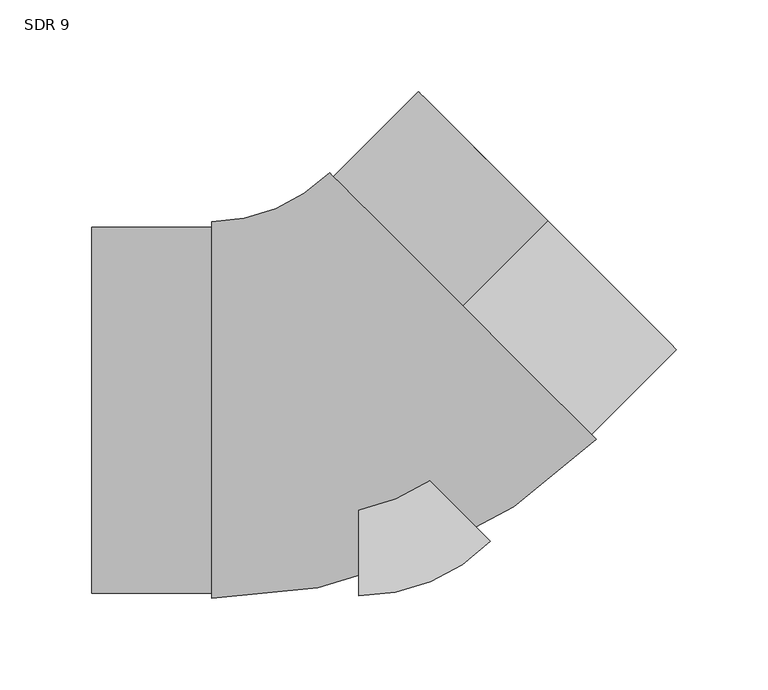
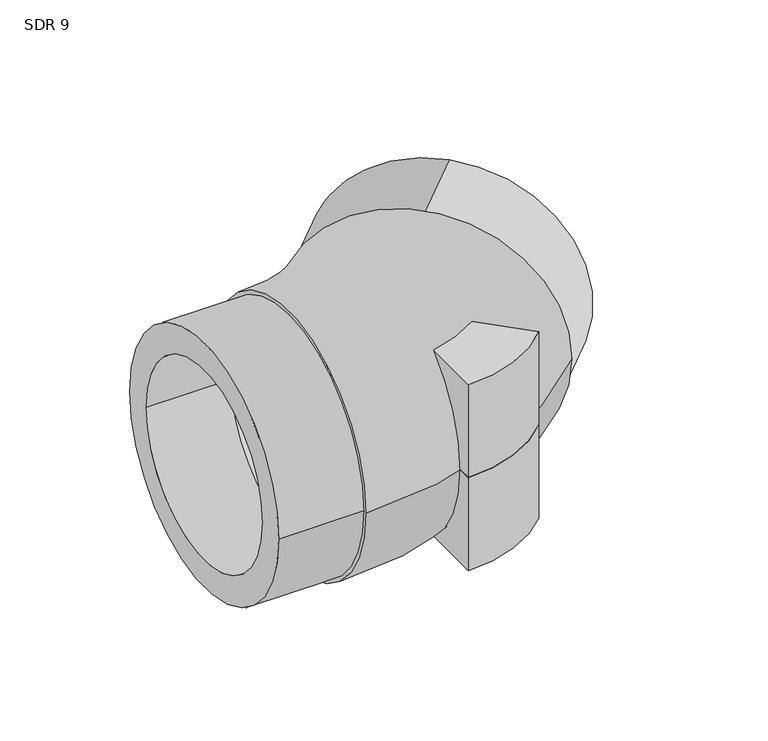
"""IFC4 building model written with IfcOpenShell, lengths in millimetres: pipe fitting geometry, Aquatherm - Elbow BW Molded : SDR 9."""

import ifcopenshell
import ifcopenshell.guid

model = None  # the IFC model being written
_history = None  # IfcOwnerHistory: only IFC2X3 demands one
_inside = {}  # id of a spatial element -> (the spatial element, [elements in it])
_under = {}  # id of a project, library or spatial element -> (it, [spatial elements below it])
_declared = {}  # id of a project -> (the project, [libraries it declares])
_typed = {}  # id of a type object -> (the type object, [elements of that type])
_made_of = {}  # id of a material, layer set ... -> (it, [elements and type objects made of it])


def new_model(schema):
    """Start an empty IFC model of exactly this schema.

    Asked for "IFC4X3", IfcOpenShell would pick the latest addendum, in which some entities
    have other attributes; the version numbers below select the first issue.
    IFC2X3 requires an IfcOwnerHistory on every rooted entity: one is made here for all.
    """
    global model, _history
    if schema == "IFC4X3":
        model = ifcopenshell.file(schema_version=(4, 3, 0, 0))
    else:
        model = ifcopenshell.file(schema=schema)
    _inside.clear()
    _under.clear()
    _declared.clear()
    _typed.clear()
    _made_of.clear()
    _history = None
    if model.schema == "IFC2X3":
        org = make("IfcOrganization", Name="unknown")
        user = make(
            "IfcPersonAndOrganization",
            ThePerson=make("IfcPerson", FamilyName="unknown"),
            TheOrganization=org,
        )
        app = make(
            "IfcApplication",
            ApplicationDeveloper=org,
            Version="unknown",
            ApplicationFullName="unknown",
            ApplicationIdentifier="unknown",
        )
        _history = make(
            "IfcOwnerHistory",
            OwningUser=user,
            OwningApplication=app,
            ChangeAction="ADDED",
            CreationDate=0,
        )
    return model


def make(cls, **values):
    """One entity of the class cls with the attributes given. An attribute that is None is left unset."""
    return model.create_entity(
        cls, **{name: value for name, value in values.items() if value is not None}
    )


def rooted(cls, **values):
    """An entity with a GlobalId (a new one), such as an element, a storey or a relation."""
    return make(cls, GlobalId=ifcopenshell.guid.new(), OwnerHistory=_history, **values)


def si_unit(unit_type, name, prefix=None):
    """IfcSIUnit, for example si_unit("LENGTHUNIT", "METRE", prefix="MILLI")."""
    return make("IfcSIUnit", UnitType=unit_type, Prefix=prefix, Name=name)


def assignment(units):
    """IfcUnitAssignment: the units of a project."""
    return None if units is None else make("IfcUnitAssignment", Units=units)


def point(xyz):
    """IfcCartesianPoint."""
    return None if xyz is None else make("IfcCartesianPoint", Coordinates=xyz)


def direction(xyz):
    """IfcDirection."""
    return None if xyz is None else make("IfcDirection", DirectionRatios=xyz)


def frame(location, z_axis=None, x_axis=None):
    """IfcAxis2Placement3D, a coordinate frame: its origin and axes. An axis left out is left unset."""
    return make(
        "IfcAxis2Placement3D",
        Location=point(location),
        Axis=direction(z_axis),
        RefDirection=direction(x_axis),
    )


def frame_2d(location, x_axis=None):
    """IfcAxis2Placement2D, a coordinate frame in the plane: its origin and x axis."""
    return make(
        "IfcAxis2Placement2D", Location=point(location), RefDirection=direction(x_axis)
    )


def origin():
    """The frame at (0, 0, 0) with its axes left unset."""
    return frame((0.0, 0.0, 0.0))


def origin_with_axes():
    """The frame at (0, 0, 0) with the z axis (0, 0, 1) and the x axis (1, 0, 0) written out."""
    return frame((0.0, 0.0, 0.0), z_axis=(0.0, 0.0, 1.0), x_axis=(1.0, 0.0, 0.0))


def origin_2d():
    """The frame at (0, 0) in the plane with its x axis left unset."""
    return frame_2d((0.0, 0.0))


def place(relative_to, where):
    """IfcLocalPlacement: puts the frame where relative to a parent placement (None: the world)."""
    return make(
        "IfcLocalPlacement", PlacementRelTo=relative_to, RelativePlacement=where
    )


def context(
    kind, dimensions, precision=None, world=None, true_north=None, identifier=None
):
    """IfcGeometricRepresentationContext, for example the 3D "Model" context."""
    return make(
        "IfcGeometricRepresentationContext",
        ContextIdentifier=identifier,
        ContextType=kind,
        CoordinateSpaceDimension=dimensions,
        Precision=precision,
        WorldCoordinateSystem=world,
        TrueNorth=true_north,
    )


def project(units=None, contexts=None):
    """IfcProject with its units and contexts."""
    return rooted(
        "IfcProject",
        Name="project",
        RepresentationContexts=contexts,
        UnitsInContext=assignment(units),
    )


def spatial(cls, under=None, at=None, **own):
    """A site, building, storey or space (cls), placed at a placement, below another one or the project."""
    s = rooted(cls, ObjectPlacement=at, **own)
    if under is not None:
        _under.setdefault(under.id(), (under, []))[1].append(s)
    return s


def polyline(points):
    """IfcPolyline through the points."""
    return make("IfcPolyline", Points=[point(p) for p in points])


def circle_curve(where, radius):
    """IfcCircle in the frame where."""
    return make("IfcCircle", Position=where, Radius=radius)


def ellipse_curve(where, semi_axis1, semi_axis2):
    """IfcEllipse in the frame where."""
    return make(
        "IfcEllipse", Position=where, SemiAxis1=semi_axis1, SemiAxis2=semi_axis2
    )


def trimmed(basis, trim1, trim2, sense, master):
    """IfcTrimmedCurve: the piece of a basis curve between two trims."""
    return make(
        "IfcTrimmedCurve",
        BasisCurve=basis,
        Trim1=trim1,
        Trim2=trim2,
        SenseAgreement=sense,
        MasterRepresentation=master,
    )


def segment(curve, same_sense, transition):
    """IfcCompositeCurveSegment."""
    return make(
        "IfcCompositeCurveSegment",
        Transition=transition,
        SameSense=same_sense,
        ParentCurve=curve,
    )


def composite_curve(segments, self_intersect=None):
    """IfcCompositeCurve: segments joined end to end."""
    return make("IfcCompositeCurve", Segments=segments, SelfIntersect=self_intersect)


def outline(outer, holes=None, kind="AREA"):
    """IfcArbitraryClosedProfileDef: a profile drawn as a closed curve; with holes, ...WithVoids."""
    if holes is None:
        return make("IfcArbitraryClosedProfileDef", ProfileType=kind, OuterCurve=outer)
    return make(
        "IfcArbitraryProfileDefWithVoids",
        ProfileType=kind,
        OuterCurve=outer,
        InnerCurves=holes,
    )


def extrude(swept, where, along, depth):
    """IfcExtrudedAreaSolid: the profile swept, set in the frame where, extruded along a direction by depth."""
    return make(
        "IfcExtrudedAreaSolid",
        SweptArea=swept,
        Position=where,
        ExtrudedDirection=direction(along),
        Depth=depth,
    )


def shape(context_of_items, identifier, shape_type, items):
    """IfcShapeRepresentation: the items that make up one representation, for example the "Body"."""
    return make(
        "IfcShapeRepresentation",
        ContextOfItems=context_of_items,
        RepresentationIdentifier=identifier,
        RepresentationType=shape_type,
        Items=items,
    )


def source(mapping_origin, context_of_items, identifier, shape_type, items):
    """IfcRepresentationMap: a shape defined once, which mapped items show again and again."""
    return make(
        "IfcRepresentationMap",
        MappingOrigin=mapping_origin,
        MappedRepresentation=shape(context_of_items, identifier, shape_type, items),
    )


def transform(
    local_origin,
    x_axis=None,
    y_axis=None,
    z_axis=None,
    scale=None,
    scale2=None,
    scale3=None,
    uniform=True,
):
    """IfcCartesianTransformationOperator3D, or its non-uniform kind. x_axis, y_axis, z_axis: its Axis1, 2, 3."""
    if uniform:
        return make(
            "IfcCartesianTransformationOperator3D",
            Axis1=direction(x_axis),
            Axis2=direction(y_axis),
            LocalOrigin=point(local_origin),
            Scale=scale,
            Axis3=direction(z_axis),
        )
    return make(
        "IfcCartesianTransformationOperator3DnonUniform",
        Axis1=direction(x_axis),
        Axis2=direction(y_axis),
        LocalOrigin=point(local_origin),
        Scale=scale,
        Axis3=direction(z_axis),
        Scale2=scale2,
        Scale3=scale3,
    )


def mapped(mapping_source, mapping_target):
    """IfcMappedItem: shows the shape of a source again, moved by a transform."""
    return make(
        "IfcMappedItem", MappingSource=mapping_source, MappingTarget=mapping_target
    )


def made_of(thing, what):
    """Note that an element or type object is made of a material, layer set ...; save() writes the relation."""
    if what is not None:
        _made_of.setdefault(what.id(), (what, []))[1].append(thing)
    return thing


def element(
    cls,
    number,
    at=None,
    inside=None,
    cuts=None,
    type_object=None,
    material=None,
    context=None,
    identifier="Body",
    shape_type=None,
    held_by="IfcProductDefinitionShape",
    body=None,
    shapes=None,
    **own,
):
    """One element of the class cls, such as IfcWall. Its Tag is "e" and its number.

    at: its placement. inside: the storey or other place that contains it. cuts: it is an
    opening in that element (IfcRelVoidsElement). A single representation is given by context,
    identifier, shape_type and body (its items); several are given by shapes. held_by: the class
    of the entity that holds the representations. save() writes the other relations.
    """
    e = rooted(cls, Tag="e%d" % number, ObjectPlacement=at, **own)
    if body is not None:
        shapes = [shape(context, identifier, shape_type, body)]
    if shapes is not None:
        e.Representation = make(held_by, Representations=shapes)
    if inside is not None:
        _inside.setdefault(inside.id(), (inside, []))[1].append(e)
    if cuts is not None:
        rooted(
            "IfcRelVoidsElement", RelatingBuildingElement=cuts, RelatedOpeningElement=e
        )
    if type_object is not None:
        _typed.setdefault(type_object.id(), (type_object, []))[1].append(e)
    return made_of(e, material)


def aggregate(whole, parts):
    """IfcRelAggregates: a whole, such as a stair, and the parts it consists of."""
    return rooted("IfcRelAggregates", RelatingObject=whole, RelatedObjects=parts)


def save(model, path):
    """Write the relations noted so far, then the file.

    IfcRelAggregates (storeys below a building ...), IfcRelContainedInSpatialStructure (elements
    in a storey), IfcRelDefinesByType, IfcRelAssociatesMaterial and IfcRelDeclares: one each for
    every whole, place, type object, material and project.
    """
    for whole, parts in _under.values():
        aggregate(whole, parts)
    for where, things in _inside.values():
        rooted(
            "IfcRelContainedInSpatialStructure",
            RelatedElements=things,
            RelatingStructure=where,
        )
    for kind, things in _typed.values():
        rooted("IfcRelDefinesByType", RelatedObjects=things, RelatingType=kind)
    for what, things in _made_of.values():
        rooted("IfcRelAssociatesMaterial", RelatedObjects=things, RelatingMaterial=what)
    for by, libraries in _declared.values():
        rooted("IfcRelDeclares", RelatingContext=by, RelatedDefinitions=libraries)
    model.write(path)


def plane_surface(at):
    """IfcPlane: the flat surface through the origin of the frame at, square to its z axis."""
    return make("IfcPlane", Position=at)


def revolved_surface(curve, axis_point, axis_direction):
    """IfcSurfaceOfRevolution: the curve turned about the line through axis_point along axis_direction."""
    return make(
        "IfcSurfaceOfRevolution",
        SweptCurve=make("IfcArbitraryOpenProfileDef", ProfileType="CURVE", Curve=curve),
        AxisPosition=make("IfcAxis1Placement", Location=point(axis_point), Axis=direction(axis_direction)),
    )


def advanced_brep(points, edges, surfaces, faces):
    """IfcAdvancedBrep: a solid bounded by faces that lie on surfaces and meet in shared edges.

    An edge is (start, end): straight between two places in points (the first is 0);
    or (start, end, curve); or (start, end, curve, False) where it runs against its curve.
    A face is (place in surfaces, loops), or (place, loops, False) where it looks against
    its surface's normal. A loop lists edges by number (the first is 1), with a minus sign
    where the edge is run from its end to its start. The first loop is the outer one.
    """
    corners = [point(p) for p in points]
    vertices = [make("IfcVertexPoint", VertexGeometry=c) for c in corners]
    made = []
    for start, end, *more in edges:
        made.append(
            make(
                "IfcEdgeCurve",
                EdgeStart=vertices[start],
                EdgeEnd=vertices[end],
                EdgeGeometry=more[0] if more else make("IfcPolyline", Points=[corners[start], corners[end]]),
                SameSense=more[1] if len(more) > 1 else True,
            )
        )
    hull = []
    for where, loops, *sense in faces:
        bounds = []
        for j, loop in enumerate(loops):
            ring = [make("IfcOrientedEdge", EdgeElement=made[abs(k) - 1], Orientation=k > 0) for k in loop]
            bounds.append(
                make(
                    "IfcFaceOuterBound" if j == 0 else "IfcFaceBound",
                    Bound=make("IfcEdgeLoop", EdgeList=ring),
                    Orientation=True,
                )
            )
        hull.append(make("IfcAdvancedFace", Bounds=bounds, FaceSurface=surfaces[where], SameSense=sense[0] if sense else True))
    return make("IfcAdvancedBrep", Outer=make("IfcClosedShell", CfsFaces=hull))


def sdr_9_84c69b19(model_context):
    return source(origin(), model_context, "Body", "SolidModel", [
        extrude(outline(composite_curve([segment(polyline([(0.0, -101.6), (0.0, 0.0), (71.852693, -71.8314034)]), True, "CONTINUOUS"), segment(trimmed(circle_curve(origin_2d(), 101.6), [point((71.852693, -71.8314034))], [point((0.0, -101.6))], False, "CARTESIAN"), True, "CONTINUOUS")], self_intersect=False)), frame((0.0, 0.0, -76.2), z_axis=(0.0, 0.0, 1.0), x_axis=(1.0, 0.0, 0.0)), (0.0, 0.0, 1.0), 76.2),
        extrude(outline(composite_curve([segment(trimmed(circle_curve(origin_2d(), 101.6), [point((71.852693, -71.8314034))], [point((0.0, -101.6))], False, "CARTESIAN"), True, "CONTINUOUS"), segment(polyline([(0.0, -101.6), (0.0, 0.0), (71.852693, -71.8314034)]), True, "CONTINUOUS")], self_intersect=False)), origin_with_axes(), (0.0, 0.0, 1.0), 76.2),
        extrude(outline(composite_curve([segment(trimmed(circle_curve(frame_2d((0.0, -99.949)), 99.949), [point((0.0, -199.898))], [point((0.0, 0.0))], False, "CARTESIAN"), True, "CONTINUOUS"), segment(trimmed(circle_curve(frame_2d((0.0, -99.949)), 99.949), [point((0.0, 0.0))], [point((0.0, -199.898))], False, "CARTESIAN"), True, "CONTINUOUS")], self_intersect=False), holes=[composite_curve([segment(trimmed(circle_curve(frame_2d((0.0, -99.949)), 77.7381111), [point((0.0, -177.6871111))], [point((0.0, -22.2108889))], True, "CARTESIAN"), True, "CONTINUOUS"), segment(trimmed(circle_curve(frame_2d((0.0, -99.949)), 77.7381111), [point((0.0, -22.2108889))], [point((0.0, -177.6871111))], True, "CARTESIAN"), True, "CONTINUOUS")], self_intersect=False)]), frame((56.7917033, 56.8085354, 99.949), z_axis=(0.7070020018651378, 0.7072115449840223, 0.0), x_axis=(-0.7072115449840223, 0.7070020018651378, 0.0)), (0.0, 0.0, 1.0), 65.7225),
        extrude(outline(composite_curve([segment(trimmed(circle_curve(frame_2d((-0.1496481, 0.0)), 99.949), [point((99.7993519, 0.0))], [point((-100.0986481, 0.0))], False, "CARTESIAN"), True, "CONTINUOUS"), segment(trimmed(circle_curve(frame_2d((-0.1496481, 0.0)), 99.949), [point((-100.0986481, 0.0))], [point((99.7993519, 0.0))], False, "CARTESIAN"), True, "CONTINUOUS")], self_intersect=False), holes=[composite_curve([segment(trimmed(circle_curve(origin_2d(), 77.7381111), [point((77.7381111, 0.0))], [point((-77.7381111, 0.0))], True, "CARTESIAN"), True, "CONTINUOUS"), segment(trimmed(circle_curve(origin_2d(), 77.7381111), [point((-77.7381111, 0.0))], [point((77.7381111, 0.0))], True, "CARTESIAN"), True, "CONTINUOUS")], self_intersect=False)]), frame((-146.05, 0.0, 0.0), z_axis=(1.0, 0.0, 0.0), x_axis=(0.0, 1.0, 0.0)), (0.0, 0.0, 1.0), 65.7225),
        advanced_brep(
        [(-80.3275, -102.94747, 0.0), (-80.3275, 102.94747, 0.0), (-80.3275, -77.7381111, 0.0), (-80.3275, 77.7381111, 0.0), (129.5973426, -15.975532, 0.0), (-16.013936, 129.5926028, 0.0), (111.768993, 1.8475352, 0.0), (1.8144136, 111.7695356, 0.0)],
        [
            (0, 1, circle_curve(frame((-80.3275, 0.0, 0.0), z_axis=(-1.0, 0.0, 0.0), x_axis=(0.0, 1.0, 0.0)), 102.94747)),
            (1, 0, circle_curve(frame((-80.3275, 0.0, 0.0), z_axis=(-1.0, 0.0, 0.0), x_axis=(0.0, 1.0, 0.0)), 102.94747)),
            (2, 3, circle_curve(frame((-80.3275, 0.0, 0.0), z_axis=(1.0, 0.0, 0.0), x_axis=(0.0, 1.0, 0.0)), 77.7381111)),
            (3, 2, circle_curve(frame((-80.3275, 0.0, 0.0), z_axis=(1.0, 0.0, 0.0), x_axis=(0.0, 1.0, 0.0)), 77.7381111)),
            (4, 5, circle_curve(frame((56.7917033, 56.8085354, 0.0), z_axis=(0.7070020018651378, 0.7072115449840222, 0.0), x_axis=(-0.7072115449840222, 0.7070020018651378, 0.0)), 102.94747)),
            (5, 4, circle_curve(frame((56.7917033, 56.8085354, 0.0), z_axis=(0.7070020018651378, 0.7072115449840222, 0.0), x_axis=(-0.7072115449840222, 0.7070020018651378, 0.0)), 102.94747)),
            (6, 7, circle_curve(frame((56.7917033, 56.8085354, 0.0), z_axis=(-0.7070020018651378, -0.7072115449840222, 0.0), x_axis=(-0.7072115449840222, 0.7070020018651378, 0.0)), 77.7381111)),
            (7, 6, circle_curve(frame((56.7917033, 56.8085354, 0.0), z_axis=(-0.7070020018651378, -0.7072115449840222, 0.0), x_axis=(-0.7072115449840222, 0.7070020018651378, 0.0)), 77.7381111)),
            (5, 1, circle_curve(frame((-80.3275, 193.887111, 0.0), z_axis=(0.0, 0.0, -1.0), x_axis=(0.0, -1.0, 0.0)), 90.939641)),
            (0, 4, circle_curve(frame((-80.3275, 193.887111, 0.0), z_axis=(0.0, 0.0, 1.0), x_axis=(0.0, -1.0, 0.0)), 296.834581)),
            (7, 3, circle_curve(frame((-80.3275, 193.887111, 0.0), z_axis=(0.0, 0.0, -1.0), x_axis=(0.0, -1.0, 0.0)), 116.1489999)),
            (2, 6, circle_curve(frame((-80.3275, 193.887111, 0.0), z_axis=(0.0, 0.0, 1.0), x_axis=(0.0, -1.0, 0.0)), 271.6252221)),
        ],
        [
            plane_surface(frame((-80.3275, 0.0, 0.0), z_axis=(-1.0, 0.0, 0.0), x_axis=(0.0, 0.0, 1.0))),
            plane_surface(frame((56.7917033, 56.8085354, 0.0), z_axis=(0.7070020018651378, 0.7072115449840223, 0.0), x_axis=(0.0, 0.0, 1.0))),
            revolved_surface(trimmed(ellipse_curve(frame((-80.3275, 0.0, 0.0), z_axis=(-1.0, 0.0, 0.0), x_axis=(0.0, 1.0, 0.0)), 102.94747, 102.94747), [point((-80.3275, -102.94747, 0.0))], [point((-80.3275, 102.94747, 0.0))], True, "CARTESIAN"), (-80.3275, 193.887111, 0.0), (0.0, 0.0, 1.0)),
            revolved_surface(trimmed(ellipse_curve(frame((-80.3275, 0.0, 0.0), z_axis=(-1.0, 0.0, 0.0), x_axis=(0.0, 1.0, 0.0)), 102.94747, 102.94747), [point((-80.3275, 102.94747, 0.0))], [point((-80.3275, -102.94747, 0.0))], True, "CARTESIAN"), (-80.3275, 193.887111, 0.0), (0.0, 0.0, 1.0)),
            revolved_surface(trimmed(ellipse_curve(frame((-80.3275, 0.0, 0.0), z_axis=(1.0, 0.0, 0.0), x_axis=(0.0, 1.0, 0.0)), 77.7381111, 77.7381111), [point((-80.3275, -77.7381111, 0.0))], [point((-80.3275, 77.7381111, 0.0))], True, "CARTESIAN"), (-80.3275, 193.887111, 0.0), (0.0, 0.0, 1.0)),
            revolved_surface(trimmed(ellipse_curve(frame((-80.3275, 0.0, 0.0), z_axis=(1.0, 0.0, 0.0), x_axis=(0.0, 1.0, 0.0)), 77.7381111, 77.7381111), [point((-80.3275, 77.7381111, 0.0))], [point((-80.3275, -77.7381111, 0.0))], True, "CARTESIAN"), (-80.3275, 193.887111, 0.0), (0.0, 0.0, 1.0)),
        ],
        [
            (0, [[1, 2], [3, 4]]),
            (1, [[5, 6], [7, 8]]),
            (2, [[9, -1, 10, -6]]),
            (3, [[-10, -2, -9, -5]]),
            (4, [[11, -3, 12, -8]]),
            (5, [[-12, -4, -11, -7]]),
        ],
    ),
    ])


if __name__ == "__main__":
    model = new_model("IFC4")
    model_context = context("Model", 3, world=origin())
    ifc_project = project(units=[si_unit("LENGTHUNIT", "METRE", prefix="MILLI")], contexts=[model_context])
    site = spatial("IfcSite", under=ifc_project)
    building = spatial("IfcBuilding", under=site)
    placement = place(None, origin())
    sdr_9_shape = sdr_9_84c69b19(model_context)
    element("IfcPipeFitting", 1, ObjectType="Aquatherm - Elbow BW Molded : SDR 9", at=placement, inside=building, context=model_context, shape_type="MappedRepresentation", body=[
        mapped(sdr_9_shape, transform((0.0, 0.0, 0.0), x_axis=(1.0, 0.0, 0.0), y_axis=(0.0, 1.0, 0.0), z_axis=(0.0, 0.0, 1.0))),
    ])
    save(model, "model.ifc")
